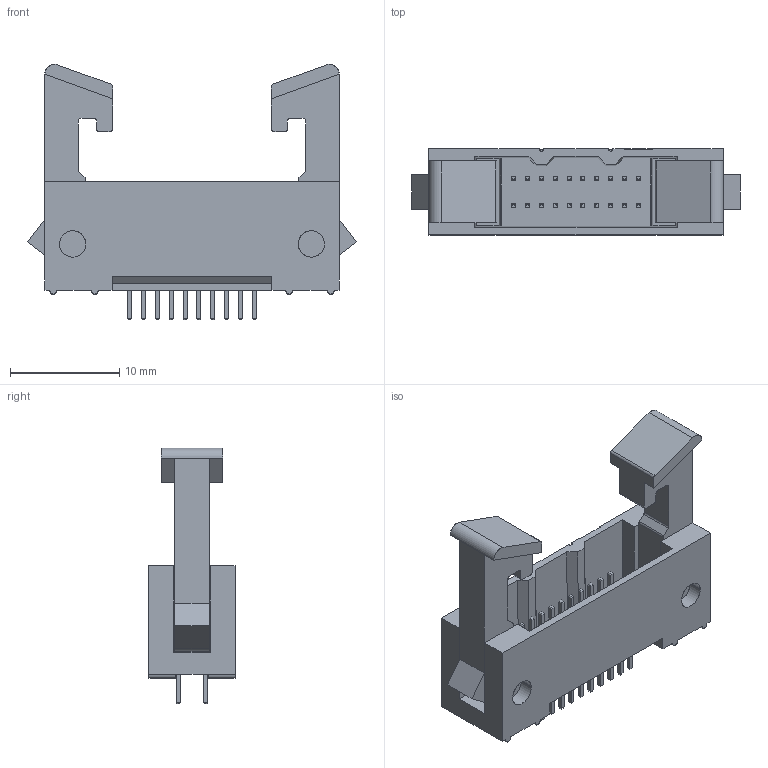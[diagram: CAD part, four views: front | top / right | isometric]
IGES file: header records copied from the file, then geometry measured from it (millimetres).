
Global section: file name: Q:\us254833\2008 Jobs\Scott_810_Series_3D_models_wr10595\81020-660201_01_iges.igs; native system: NX V5.0; preprocessor: UGS NX IGES V5.0; date: 20081015.134924; units: inch
Bounding box: 30.07 x 7.87 x 23.37 mm (x, y, z)
Surface area: 2464.6 mm2 (no closed solid volume)
Topology: 0 solids, 0 shells, 545 faces, 2782 edges, 2782 vertices
Faces by surface type: bspline 545
